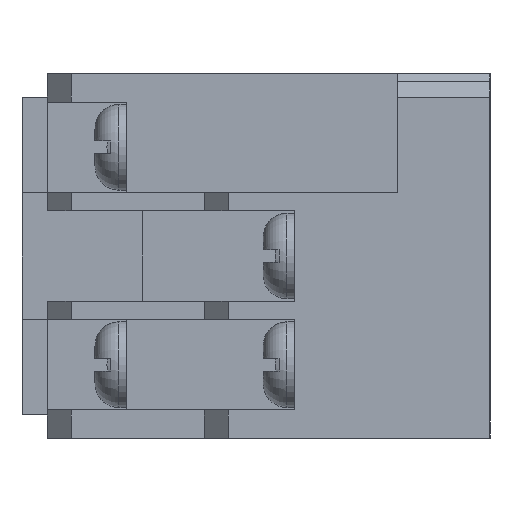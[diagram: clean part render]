
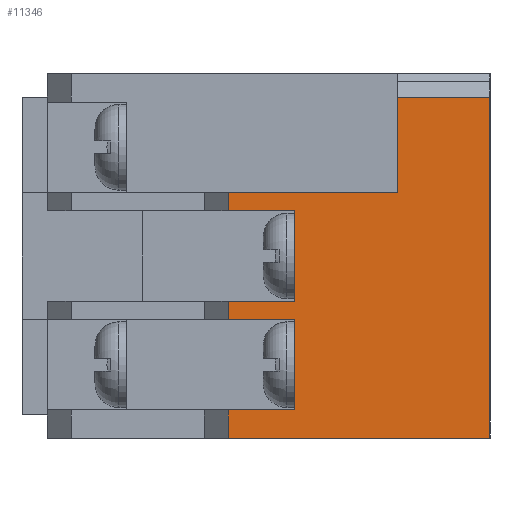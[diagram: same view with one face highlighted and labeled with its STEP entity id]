
A CAD part, left-side view. The second image highlights one B-rep face of the part: STEP entity #11346.
In plain terms, the highlighted planar face has unit normal (-1, 0, 0).
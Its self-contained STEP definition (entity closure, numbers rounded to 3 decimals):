
#72 = VERTEX_POINT ( 'NONE', #2607 ) ;
#188 = VECTOR ( 'NONE', #13226, 1000. ) ;
#403 = VECTOR ( 'NONE', #6691, 1000. ) ;
#859 = VECTOR ( 'NONE', #7449, 1000. ) ;
#891 = DIRECTION ( 'NONE',  ( 1., 0., 0. ) ) ;
#1296 = VERTEX_POINT ( 'NONE', #8670 ) ;
#1478 = LINE ( 'NONE', #10348, #7584 ) ;
#1609 = ORIENTED_EDGE ( 'NONE', *, *, #13321, .F. ) ;
#1660 = ORIENTED_EDGE ( 'NONE', *, *, #3868, .T. ) ;
#1820 = VERTEX_POINT ( 'NONE', #11959 ) ;
#1842 = LINE ( 'NONE', #11217, #2566 ) ;
#2125 = EDGE_CURVE ( 'NONE', #4623, #8282, #9300, .T. ) ;
#2150 = EDGE_CURVE ( 'NONE', #8282, #7296, #12440, .T. ) ;
#2180 = VECTOR ( 'NONE', #11440, 1000. ) ;
#2482 = DIRECTION ( 'NONE',  ( 0., 0., -1. ) ) ;
#2498 = ORIENTED_EDGE ( 'NONE', *, *, #2150, .T. ) ;
#2566 = VECTOR ( 'NONE', #3326, 1000. ) ;
#2607 = CARTESIAN_POINT ( 'NONE',  ( -34., 16.5, 15.5 ) ) ;
#2695 = CARTESIAN_POINT ( 'NONE',  ( -34., 11.3, 14.35 ) ) ;
#2721 = DIRECTION ( 'NONE',  ( 0., 1., 0. ) ) ;
#2851 = VERTEX_POINT ( 'NONE', #7315 ) ;
#2918 = VECTOR ( 'NONE', #2721, 1000. ) ;
#3009 = VECTOR ( 'NONE', #4504, 1000. ) ;
#3053 = CARTESIAN_POINT ( 'NONE',  ( -34., 12.3, 7.5 ) ) ;
#3139 = CARTESIAN_POINT ( 'NONE',  ( -34., 11.3, 1.8 ) ) ;
#3166 = CARTESIAN_POINT ( 'NONE',  ( -34., 12.3, 8.65 ) ) ;
#3222 = DIRECTION ( 'NONE',  ( 0., 0., -1. ) ) ;
#3326 = DIRECTION ( 'NONE',  ( 0., 1., 0. ) ) ;
#3334 = CARTESIAN_POINT ( 'NONE',  ( -34., 0., 0. ) ) ;
#3411 = CARTESIAN_POINT ( 'NONE',  ( -34., 0., 23. ) ) ;
#3607 = VERTEX_POINT ( 'NONE', #9011 ) ;
#3868 = EDGE_CURVE ( 'NONE', #72, #2851, #12222, .T. ) ;
#3951 = CARTESIAN_POINT ( 'NONE',  ( -34., 12.3, 1.8 ) ) ;
#4168 = LINE ( 'NONE', #2695, #4360 ) ;
#4198 = CARTESIAN_POINT ( 'NONE',  ( -34., 0., 0. ) ) ;
#4229 = CARTESIAN_POINT ( 'NONE',  ( -34., 16.5, 7.5 ) ) ;
#4267 = EDGE_CURVE ( 'NONE', #1820, #5748, #4578, .T. ) ;
#4360 = VECTOR ( 'NONE', #6123, 1000. ) ;
#4504 = DIRECTION ( 'NONE',  ( 0., -1., 0. ) ) ;
#4577 = CARTESIAN_POINT ( 'NONE',  ( -34., 5.8, 15.5 ) ) ;
#4578 = LINE ( 'NONE', #3411, #7979 ) ;
#4618 = VECTOR ( 'NONE', #9948, 1000. ) ;
#4623 = VERTEX_POINT ( 'NONE', #3166 ) ;
#5158 = LINE ( 'NONE', #3951, #4618 ) ;
#5200 = CARTESIAN_POINT ( 'NONE',  ( -34., 11.3, 8.65 ) ) ;
#5400 = ORIENTED_EDGE ( 'NONE', *, *, #7504, .T. ) ;
#5596 = VECTOR ( 'NONE', #14488, 1000. ) ;
#5748 = VERTEX_POINT ( 'NONE', #4198 ) ;
#5924 = DIRECTION ( 'NONE',  ( 0., 0., -1. ) ) ;
#5993 = LINE ( 'NONE', #7041, #2918 ) ;
#6123 = DIRECTION ( 'NONE',  ( 0., 1., 0. ) ) ;
#6268 = VECTOR ( 'NONE', #11106, 1000. ) ;
#6360 = CARTESIAN_POINT ( 'NONE',  ( -34., 11.3, 15.5 ) ) ;
#6642 = ORIENTED_EDGE ( 'NONE', *, *, #8285, .T. ) ;
#6691 = DIRECTION ( 'NONE',  ( 0., 0., -1. ) ) ;
#6756 = CARTESIAN_POINT ( 'NONE',  ( -34., 16.5, 1.8 ) ) ;
#6796 = VERTEX_POINT ( 'NONE', #6756 ) ;
#6956 = VERTEX_POINT ( 'NONE', #12608 ) ;
#6979 = EDGE_CURVE ( 'NONE', #1820, #3607, #5993, .T. ) ;
#7041 = CARTESIAN_POINT ( 'NONE',  ( -34., 0., 21.5 ) ) ;
#7187 = VERTEX_POINT ( 'NONE', #3053 ) ;
#7254 = CARTESIAN_POINT ( 'NONE',  ( -34., 16.5, 14.35 ) ) ;
#7296 = VERTEX_POINT ( 'NONE', #4229 ) ;
#7315 = CARTESIAN_POINT ( 'NONE',  ( -34., 16.5, 14.35 ) ) ;
#7388 = ORIENTED_EDGE ( 'NONE', *, *, #10653, .T. ) ;
#7449 = DIRECTION ( 'NONE',  ( 0., 1., 0. ) ) ;
#7504 = EDGE_CURVE ( 'NONE', #6796, #1296, #1478, .T. ) ;
#7550 = EDGE_LOOP ( 'NONE', ( #7586, #14160, #2498, #10435, #11878, #12273, #5400, #7388, #12256, #13794, #7600, #6642, #1660, #1609 ) ) ;
#7584 = VECTOR ( 'NONE', #5924, 1000. ) ;
#7586 = ORIENTED_EDGE ( 'NONE', *, *, #14044, .F. ) ;
#7600 = ORIENTED_EDGE ( 'NONE', *, *, #12999, .T. ) ;
#7657 = CARTESIAN_POINT ( 'NONE',  ( -34., 16.5, 8.65 ) ) ;
#7945 = LINE ( 'NONE', #12398, #403 ) ;
#7968 = DIRECTION ( 'NONE',  ( 0., 0., -1. ) ) ;
#7976 = CARTESIAN_POINT ( 'NONE',  ( -34., 12.3, 8.65 ) ) ;
#7979 = VECTOR ( 'NONE', #3222, 1000. ) ;
#8282 = VERTEX_POINT ( 'NONE', #7657 ) ;
#8285 = EDGE_CURVE ( 'NONE', #10157, #72, #10751, .T. ) ;
#8670 = CARTESIAN_POINT ( 'NONE',  ( -34., 16.5, 0. ) ) ;
#8844 = CARTESIAN_POINT ( 'NONE',  ( -34., 16.5, 7.5 ) ) ;
#9011 = CARTESIAN_POINT ( 'NONE',  ( -34., 5.8, 21.5 ) ) ;
#9300 = LINE ( 'NONE', #5200, #859 ) ;
#9948 = DIRECTION ( 'NONE',  ( 0., 0., 1. ) ) ;
#10001 = LINE ( 'NONE', #3334, #3009 ) ;
#10157 = VERTEX_POINT ( 'NONE', #4577 ) ;
#10348 = CARTESIAN_POINT ( 'NONE',  ( -34., 16.5, 0. ) ) ;
#10435 = ORIENTED_EDGE ( 'NONE', *, *, #13628, .F. ) ;
#10653 = EDGE_CURVE ( 'NONE', #1296, #5748, #10001, .T. ) ;
#10751 = LINE ( 'NONE', #6360, #188 ) ;
#10813 = VECTOR ( 'NONE', #2482, 1000. ) ;
#11106 = DIRECTION ( 'NONE',  ( 0., 0., -1. ) ) ;
#11133 = LINE ( 'NONE', #7976, #2180 ) ;
#11217 = CARTESIAN_POINT ( 'NONE',  ( -34., 11.3, 7.5 ) ) ;
#11346 = ADVANCED_FACE ( 'NONE', ( #14208 ), #13495, .F. ) ;
#11440 = DIRECTION ( 'NONE',  ( 0., 0., 1. ) ) ;
#11719 = EDGE_CURVE ( 'NONE', #14388, #7187, #5158, .T. ) ;
#11878 = ORIENTED_EDGE ( 'NONE', *, *, #11719, .F. ) ;
#11959 = CARTESIAN_POINT ( 'NONE',  ( -34., 0., 21.5 ) ) ;
#12222 = LINE ( 'NONE', #7254, #10813 ) ;
#12256 = ORIENTED_EDGE ( 'NONE', *, *, #4267, .F. ) ;
#12273 = ORIENTED_EDGE ( 'NONE', *, *, #14551, .T. ) ;
#12369 = AXIS2_PLACEMENT_3D ( 'NONE', #14635, #891, #7968 ) ;
#12398 = CARTESIAN_POINT ( 'NONE',  ( -34., 5.8, 15.5 ) ) ;
#12440 = LINE ( 'NONE', #8844, #6268 ) ;
#12608 = CARTESIAN_POINT ( 'NONE',  ( -34., 12.3, 14.35 ) ) ;
#12802 = CARTESIAN_POINT ( 'NONE',  ( -34., 12.3, 1.8 ) ) ;
#12999 = EDGE_CURVE ( 'NONE', #3607, #10157, #7945, .T. ) ;
#13226 = DIRECTION ( 'NONE',  ( 0., 1., 0. ) ) ;
#13321 = EDGE_CURVE ( 'NONE', #6956, #2851, #4168, .T. ) ;
#13495 = PLANE ( 'NONE',  #12369 ) ;
#13628 = EDGE_CURVE ( 'NONE', #7187, #7296, #1842, .T. ) ;
#13794 = ORIENTED_EDGE ( 'NONE', *, *, #6979, .T. ) ;
#14044 = EDGE_CURVE ( 'NONE', #4623, #6956, #11133, .T. ) ;
#14160 = ORIENTED_EDGE ( 'NONE', *, *, #2125, .T. ) ;
#14208 = FACE_OUTER_BOUND ( 'NONE', #7550, .T. ) ;
#14388 = VERTEX_POINT ( 'NONE', #12802 ) ;
#14475 = LINE ( 'NONE', #3139, #5596 ) ;
#14488 = DIRECTION ( 'NONE',  ( 0., 1., 0. ) ) ;
#14551 = EDGE_CURVE ( 'NONE', #14388, #6796, #14475, .T. ) ;
#14635 = CARTESIAN_POINT ( 'NONE',  ( -34., 0., 23. ) ) ;
